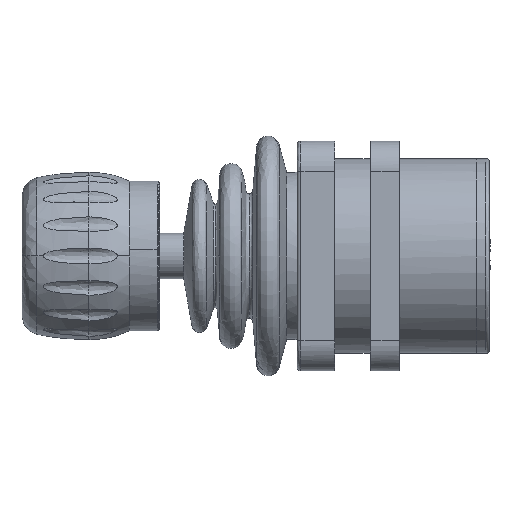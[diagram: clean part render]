
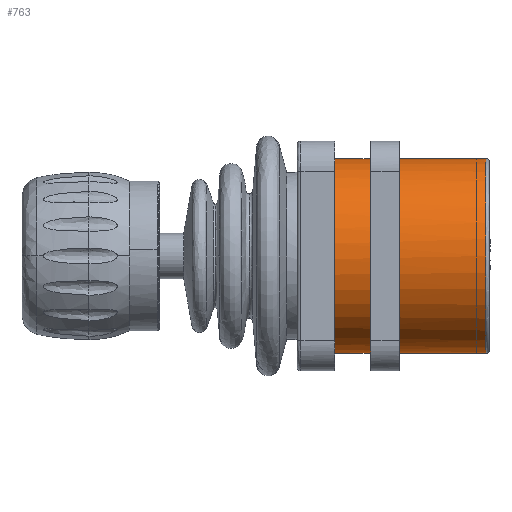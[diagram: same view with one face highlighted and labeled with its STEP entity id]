
A CAD part, left-side view. The second image highlights one B-rep face of the part: STEP entity #763.
In plain terms, the highlighted cylindrical face has radius 20.447 mm (diameter 40.894 mm), a partial arc.
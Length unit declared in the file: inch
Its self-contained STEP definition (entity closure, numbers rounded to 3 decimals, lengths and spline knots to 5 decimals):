
#746 = ORIENTED_EDGE ( 'NONE', *, *, #747, .F. ) ;
#747 = EDGE_CURVE ( 'NONE', #767, #827, #6872, .T. ) ;
#763 = ADVANCED_FACE ( 'NONE', ( #6952 ), #6951, .F. ) ;
#764 = EDGE_LOOP ( 'NONE', ( #765, #769, #825, #746 ) ) ;
#765 = ORIENTED_EDGE ( 'NONE', *, *, #766, .T. ) ;
#766 = EDGE_CURVE ( 'NONE', #767, #768, #6946, .T. ) ;
#767 = VERTEX_POINT ( 'NONE', #6941 ) ;
#768 = VERTEX_POINT ( 'NONE', #6940 ) ;
#769 = ORIENTED_EDGE ( 'NONE', *, *, #770, .T. ) ;
#770 = EDGE_CURVE ( 'NONE', #768, #771, #6939, .T. ) ;
#771 = VERTEX_POINT ( 'NONE', #6995 ) ;
#825 = ORIENTED_EDGE ( 'NONE', *, *, #826, .F. ) ;
#826 = EDGE_CURVE ( 'NONE', #827, #771, #7209, .T. ) ;
#827 = VERTEX_POINT ( 'NONE', #7230 ) ;
#6650 = CARTESIAN_POINT ( 'NONE',  ( -0.77925, -0.187, -0.20874 ) ) ;
#6651 = CARTESIAN_POINT ( 'NONE',  ( -0.79981, -0.187, -0.10536 ) ) ;
#6652 = CARTESIAN_POINT ( 'NONE',  ( -0.805, -0.187, -0.0527 ) ) ;
#6653 = CARTESIAN_POINT ( 'NONE',  ( -0.805, -0.187, 0.0527 ) ) ;
#6654 = CARTESIAN_POINT ( 'NONE',  ( -0.79981, -0.187, 0.10536 ) ) ;
#6655 = CARTESIAN_POINT ( 'NONE',  ( -0.77925, -0.187, 0.20874 ) ) ;
#6656 = CARTESIAN_POINT ( 'NONE',  ( -0.76389, -0.187, 0.25937 ) ) ;
#6866 = DIRECTION ( 'NONE',  ( 0., 1., 0. ) ) ;
#6867 = VECTOR ( 'NONE', #6866, 39.37008 ) ;
#6868 = CARTESIAN_POINT ( 'NONE',  ( 0., -1.355, 0.805 ) ) ;
#6872 = LINE ( 'NONE', #6868, #6867 ) ;
#6901 = CARTESIAN_POINT ( 'NONE',  ( -0.76389, -0.187, -0.25937 ) ) ;
#6936 = DIRECTION ( 'NONE',  ( 0., 1., 0. ) ) ;
#6937 = VECTOR ( 'NONE', #6936, 39.37008 ) ;
#6938 = CARTESIAN_POINT ( 'NONE',  ( 0., -1.355, -0.805 ) ) ;
#6939 = LINE ( 'NONE', #6938, #6937 ) ;
#6940 = CARTESIAN_POINT ( 'NONE',  ( 0., -1.43375, -0.805 ) ) ;
#6941 = CARTESIAN_POINT ( 'NONE',  ( 0., -1.43375, 0.805 ) ) ;
#6942 = DIRECTION ( 'NONE',  ( 0., 0., 1. ) ) ;
#6943 = DIRECTION ( 'NONE',  ( 0., -1., 0. ) ) ;
#6944 = CARTESIAN_POINT ( 'NONE',  ( 0., -1.43375, 0. ) ) ;
#6945 = AXIS2_PLACEMENT_3D ( 'NONE', #6944, #6943, #6942 ) ;
#6946 = CIRCLE ( 'NONE', #6945, 0.805 ) ;
#6947 = DIRECTION ( 'NONE',  ( 0., 0., 1. ) ) ;
#6948 = DIRECTION ( 'NONE',  ( 0., 1., 0. ) ) ;
#6949 = CARTESIAN_POINT ( 'NONE',  ( 0., -1.355, 0. ) ) ;
#6950 = AXIS2_PLACEMENT_3D ( 'NONE', #6949, #6948, #6947 ) ;
#6951 = CYLINDRICAL_SURFACE ( 'NONE', #6950, 0.805 ) ;
#6952 = FACE_OUTER_BOUND ( 'NONE', #764, .T. ) ;
#6995 = CARTESIAN_POINT ( 'NONE',  ( 0., -0.187, -0.805 ) ) ;
#7175 = CARTESIAN_POINT ( 'NONE',  ( -0.72355, -0.187, 0.35675 ) ) ;
#7176 = CARTESIAN_POINT ( 'NONE',  ( -0.69861, -0.187, 0.40342 ) ) ;
#7177 = CARTESIAN_POINT ( 'NONE',  ( -0.64005, -0.187, 0.49105 ) ) ;
#7178 = CARTESIAN_POINT ( 'NONE',  ( -0.60649, -0.187, 0.53196 ) ) ;
#7179 = CARTESIAN_POINT ( 'NONE',  ( -0.53195, -0.187, 0.60648 ) ) ;
#7180 = CARTESIAN_POINT ( 'NONE',  ( -0.49105, -0.187, 0.64006 ) ) ;
#7181 = CARTESIAN_POINT ( 'NONE',  ( -0.40341, -0.187, 0.69861 ) ) ;
#7182 = CARTESIAN_POINT ( 'NONE',  ( -0.35675, -0.187, 0.72356 ) ) ;
#7183 = CARTESIAN_POINT ( 'NONE',  ( -0.25937, -0.187, 0.76389 ) ) ;
#7184 = CARTESIAN_POINT ( 'NONE',  ( -0.20874, -0.187, 0.77925 ) ) ;
#7185 = CARTESIAN_POINT ( 'NONE',  ( -0.1312, -0.187, 0.79467 ) ) ;
#7186 = CARTESIAN_POINT ( 'NONE',  ( -0.10508, -0.187, 0.79855 ) ) ;
#7187 = CARTESIAN_POINT ( 'NONE',  ( -0.05274, -0.187, 0.80371 ) ) ;
#7188 = CARTESIAN_POINT ( 'NONE',  ( -0.02643, -0.187, 0.805 ) ) ;
#7189 = CARTESIAN_POINT ( 'NONE',  ( 0., -0.187, 0.805 ) ) ;
#7209 = B_SPLINE_CURVE_WITH_KNOTS ( 'NONE', 3,
 ( #7189, #7188, #7187, #7186, #7185, #7184, #7183, #7182, #7181, #7180, #7179, #7178, #7177, #7176, #7175, #6656, #6655, #6654, #6653, #6652, #6651, #6650, #6901, #7243, #7242, #7241, #7240, #7239, #7238, #7237, #7236, #7235, #7234, #7233, #7232, #7231 ),
 .UNSPECIFIED., .F., .F.,
 ( 4, 2, 2, 2, 2, 2, 2, 2, 2, 2, 2, 2, 2, 2, 2, 2, 2, 4 ),
 ( 0., 0.03125, 0.0625, 0.125, 0.1875, 0.25, 0.3125, 0.375, 0.4375, 0.5, 0.5625, 0.625, 0.6875, 0.75, 0.8125, 0.875, 0.9375, 1. ),
 .UNSPECIFIED. ) ;
#7230 = CARTESIAN_POINT ( 'NONE',  ( 0., -0.187, 0.805 ) ) ;
#7231 = CARTESIAN_POINT ( 'NONE',  ( 0., -0.187, -0.805 ) ) ;
#7232 = CARTESIAN_POINT ( 'NONE',  ( -0.05277, -0.187, -0.805 ) ) ;
#7233 = CARTESIAN_POINT ( 'NONE',  ( -0.10536, -0.187, -0.79981 ) ) ;
#7234 = CARTESIAN_POINT ( 'NONE',  ( -0.20874, -0.187, -0.77925 ) ) ;
#7235 = CARTESIAN_POINT ( 'NONE',  ( -0.25937, -0.187, -0.76389 ) ) ;
#7236 = CARTESIAN_POINT ( 'NONE',  ( -0.35675, -0.187, -0.72355 ) ) ;
#7237 = CARTESIAN_POINT ( 'NONE',  ( -0.40342, -0.187, -0.69861 ) ) ;
#7238 = CARTESIAN_POINT ( 'NONE',  ( -0.49105, -0.187, -0.64005 ) ) ;
#7239 = CARTESIAN_POINT ( 'NONE',  ( -0.53196, -0.187, -0.60649 ) ) ;
#7240 = CARTESIAN_POINT ( 'NONE',  ( -0.60648, -0.187, -0.53195 ) ) ;
#7241 = CARTESIAN_POINT ( 'NONE',  ( -0.64006, -0.187, -0.49105 ) ) ;
#7242 = CARTESIAN_POINT ( 'NONE',  ( -0.69861, -0.187, -0.40341 ) ) ;
#7243 = CARTESIAN_POINT ( 'NONE',  ( -0.72356, -0.187, -0.35675 ) ) ;
